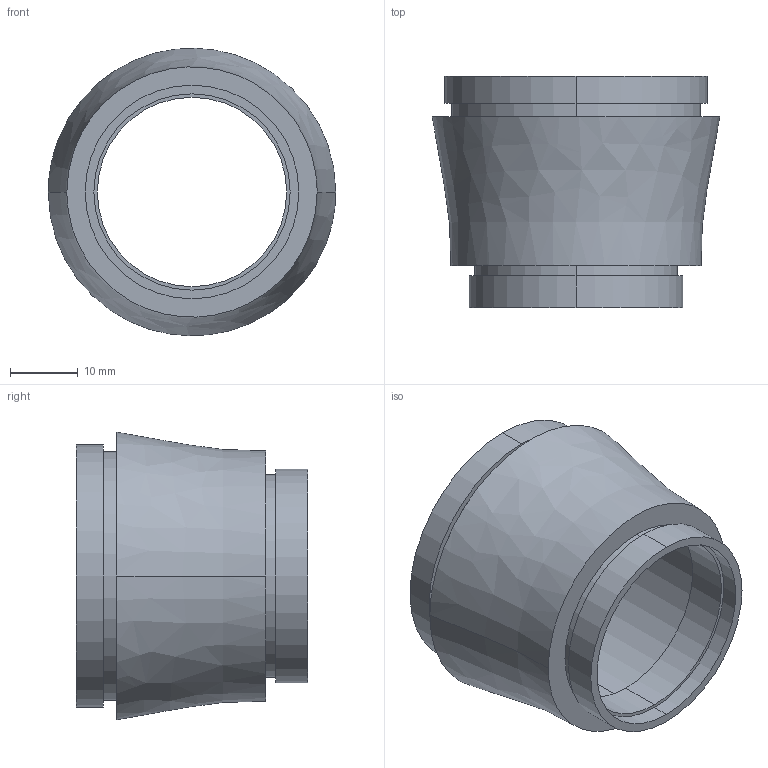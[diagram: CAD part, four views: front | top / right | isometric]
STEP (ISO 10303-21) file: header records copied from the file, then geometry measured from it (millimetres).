
FILE_DESCRIPTION (( 'STEP AP214' ), '1' );
FILE_NAME ('ÎDÌ.028.01.00.001 Êîðïóñ êàïñþëÿ.STEP', '2025-03-18T07:17:58', ( '' ), ( '' ), 'SwSTEP 2.0', 'SolidWorks 2024', '' );
FILE_SCHEMA (( 'AUTOMOTIVE_DESIGN' ));
Length unit declared in the file: millimetre
Products named in the file (1): ОDМ.028.01.00.001 Корпус капсюля
Bounding box: 42.5 x 34.2 x 42.49 mm (x, y, z)
Volume: 10944 mm3; surface area: 9123.2 mm2
Topology: 1 solids, 1 shells, 27 faces, 54 edges, 36 vertices
Faces by surface type: cylinder 16, plane 9, bspline 2
Entity records: 925 total; most frequent: CARTESIAN_POINT 322, DIRECTION 132, ORIENTED_EDGE 108, AXIS2_PLACEMENT_3D 58, EDGE_CURVE 54, EDGE_LOOP 36, VERTEX_POINT 36, CIRCLE 32
